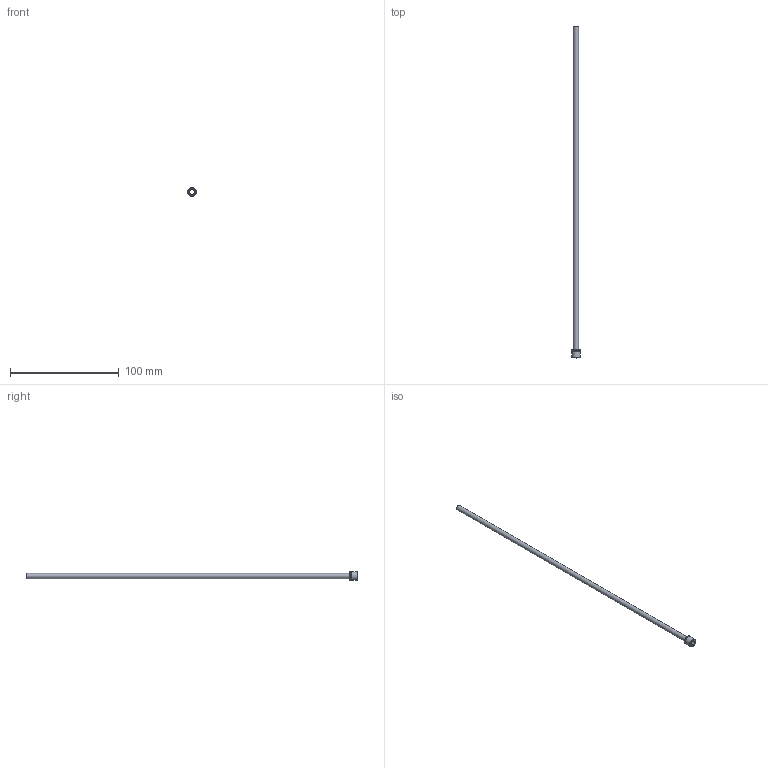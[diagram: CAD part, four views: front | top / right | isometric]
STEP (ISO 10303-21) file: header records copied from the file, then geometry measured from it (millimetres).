
FILE_DESCRIPTION(/* description */ (''),/* implementation_level */ '2;1');
FILE_NAME(/* name */ 'C:/Users/drich/Desktop/JHF187T-12 v1.step',/* time_stamp */ '2020-01-02T19:59:02-06:00',/* author */ (''),/* organization */ (''),/* preprocessor_version */ 'ST-DEVELOPER v18',/* originating_system */ 'Autodesk Translation Framework v8.12.0.6',/* authorisation */ '');
FILE_SCHEMA (('AUTOMOTIVE_DESIGN { 1 0 10303 214 3 1 1 }'));
Length unit declared in the file: inch
Products named in the file (1): JHF187T-12
Bounding box: 7.98 x 304.8 x 7.98 mm (x, y, z)
Volume: 1318.4 mm3; surface area: 8744 mm2
Topology: 1 solids, 1 shells, 10 faces, 24 edges, 18 vertices
Faces by surface type: cylinder 4, plane 4, cone 1, torus 1
Full cylindrical faces by diameter (mm): 4.242 x1, 4.75 x1, 7.846 x1, 7.976 x1
Entity records: 354 total; most frequent: DIRECTION 65, CARTESIAN_POINT 53, ORIENTED_EDGE 48, AXIS2_PLACEMENT_3D 30, EDGE_CURVE 24, CIRCLE 19, VERTEX_POINT 18, EDGE_LOOP 14
